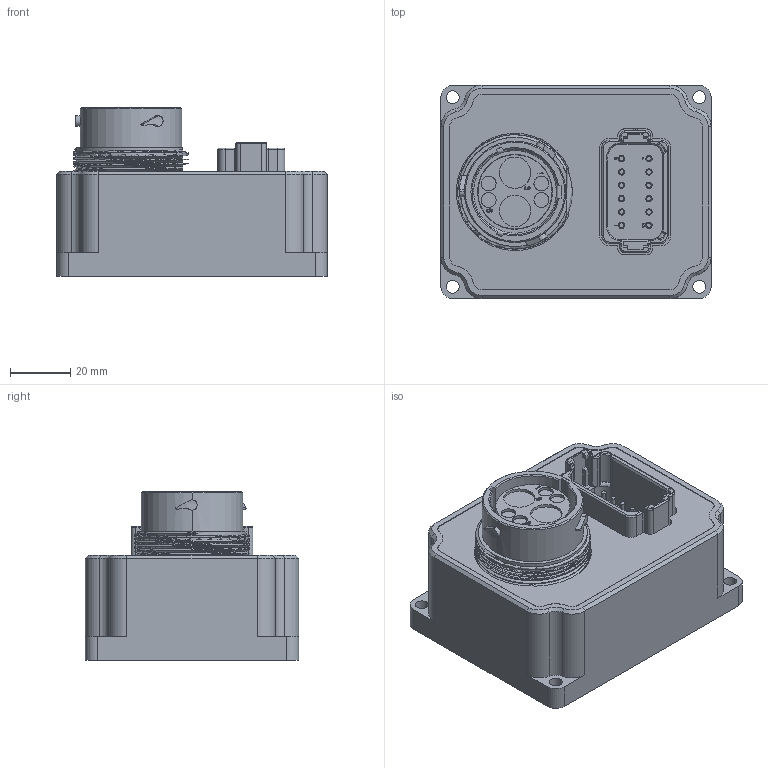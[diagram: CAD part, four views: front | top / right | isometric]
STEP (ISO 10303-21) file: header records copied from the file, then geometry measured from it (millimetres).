
FILE_DESCRIPTION (( 'STEP AP214' ), '1' );
FILE_NAME ('AEVC-H12-100.STEP', '2019-09-24T18:25:37', ( '' ), ( '' ), 'SwSTEP 2.0', 'SolidWorks 2014', '' );
FILE_SCHEMA (( 'AUTOMOTIVE_DESIGN' ));
Length unit declared in the file: millimetre
Products named in the file (36): VISHEY CAP25X10.15; Part5^Valve Driver; Part6^Valve Driver; Part3^Valve Driver; Part1^Valve Driver; box; part2^Valve Driver; c-dt15-12pa-99-3d1; c-hdp24-18-6pn-a-3d; _T-1S6-07-TSW-1-07-12-D; AEVC-H12-100; TSW-112-07-T-D; _TSW-112-07-T-D_body; MTMM-124-15-T-S-090; _MTMM-124-15-T-S-090_body; _MTMM-124-15-T-S-090_pins; Part8^Valve Driver; Part7^Valve Driver
Assembly tree (18 placements, depth 3):
  VISHEY CAP25X10.15
  Part6^Valve Driver
  Part5^Valve Driver
  Part3^Valve Driver
  Part1^Valve Driver
Bounding box: 90 x 71 x 56.16 mm (x, y, z)
Volume: 143029.1 mm3; surface area: 96711.7 mm2
Topology: 18 solids, 18 shells, 3885 faces, 9855 edges, 6166 vertices
Faces by surface type: plane 3151, cylinder 466, bspline 186, cone 80, torus 2
Entity records: 123589 total; most frequent: CARTESIAN_POINT 36061, ORIENTED_EDGE 14622, DIRECTION 13112, EDGE_CURVE 7311, LINE 5700, VECTOR 5700, VERTEX_POINT 4618, AXIS2_PLACEMENT_3D 3706
